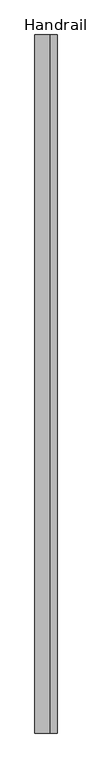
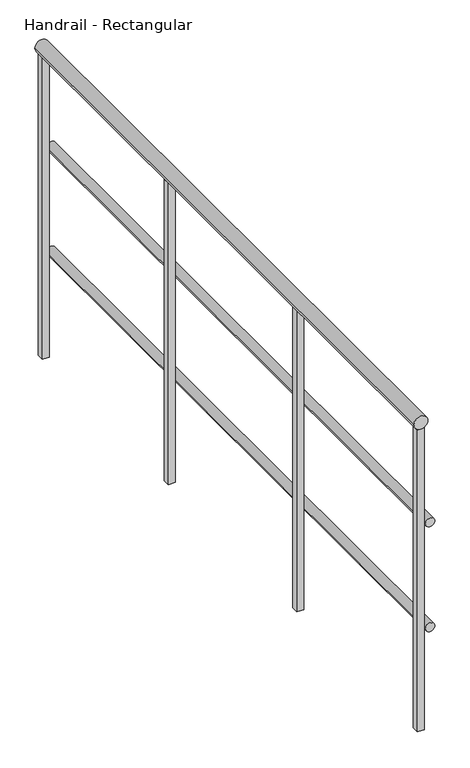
"""IFC4 building model written with IfcOpenShell, lengths in millimetres: railing geometry, Handrail - Rectangular."""

from ifc_helpers import new_model, si_unit, point, frame, frame_2d, origin, place, context, project, spatial, polyline, circle_curve, trimmed, segment, composite_curve, outline, extrude, source, transform, mapped, element, save


def handrail_rectangular_3ccce273(model_context):
    return source(origin(), model_context, "Body", "SweptSolid", [
        extrude(outline(composite_curve([segment(trimmed(circle_curve(frame_2d((3644.9, 2322.5410437)), 12.7), [point((3644.9, 2335.2410437))], [point((3644.9, 2309.8410437))], False, "CARTESIAN"), True, "CONTINUOUS"), segment(trimmed(circle_curve(frame_2d((3644.9, 2322.5410437)), 12.7), [point((3644.9, 2309.8410437))], [point((3644.9, 2335.2410437))], False, "CARTESIAN"), True, "CONTINUOUS")], self_intersect=False)), frame((0.0, 8414.2316867, 0.0), z_axis=(0.0, 1.0, 0.0), x_axis=(0.0, 0.0, 1.0)), (0.0, 0.0, 1.0), 1803.4),
        extrude(outline(composite_curve([segment(trimmed(circle_curve(frame_2d((3340.1, 2322.5410437)), 12.7), [point((3340.1, 2335.2410437))], [point((3340.1, 2309.8410437))], False, "CARTESIAN"), True, "CONTINUOUS"), segment(trimmed(circle_curve(frame_2d((3340.1, 2322.5410437)), 12.7), [point((3340.1, 2309.8410437))], [point((3340.1, 2335.2410437))], False, "CARTESIAN"), True, "CONTINUOUS")], self_intersect=False)), frame((0.0, 8414.2316867, 0.0), z_axis=(0.0, 1.0, 0.0), x_axis=(0.0, 0.0, 1.0)), (0.0, 0.0, 1.0), 1803.4),
        extrude(outline(composite_curve([segment(trimmed(circle_curve(frame_2d((3943.35, 2297.1410437)), 19.05), [point((3943.35, 2316.1910437))], [point((3943.35, 2278.0910437))], False, "CARTESIAN"), True, "CONTINUOUS"), segment(trimmed(circle_curve(frame_2d((3943.35, 2297.1410437)), 19.05), [point((3943.35, 2278.0910437))], [point((3943.35, 2316.1910437))], False, "CARTESIAN"), True, "CONTINUOUS")], self_intersect=False)), frame((0.0, 8414.2316867, 0.0), z_axis=(0.0, 1.0, 0.0), x_axis=(0.0, 0.0, 1.0)), (0.0, 0.0, 1.0), 1803.4),
        extrude(outline(polyline([(2287.6160437, 9007.9566867), (2306.6660437, 9007.9566867), (2306.6660437, 8988.9066867), (2287.6160437, 8988.9066867), (2287.6160437, 9007.9566867)])), frame((0.0, 0.0, 3048.0), z_axis=(0.0, 0.0, 1.0), x_axis=(1.0, 0.0, 0.0)), (0.0, 0.0, 1.0), 876.3),
        extrude(outline(polyline([(2287.6160437, 9617.5566867), (2306.6660437, 9617.5566867), (2306.6660437, 9598.5066867), (2287.6160437, 9598.5066867), (2287.6160437, 9617.5566867)])), frame((0.0, 0.0, 3048.0), z_axis=(0.0, 0.0, 1.0), x_axis=(1.0, 0.0, 0.0)), (0.0, 0.0, 1.0), 876.3),
        extrude(outline(polyline([(2287.6160437, 8433.2816867), (2306.6660437, 8433.2816867), (2306.6660437, 8414.2316867), (2287.6160437, 8414.2316867), (2287.6160437, 8433.2816867)])), frame((0.0, 0.0, 3048.0), z_axis=(0.0, 0.0, 1.0), x_axis=(1.0, 0.0, 0.0)), (0.0, 0.0, 1.0), 876.3),
        extrude(outline(polyline([(2287.6160437, 10217.6316867), (2306.6660437, 10217.6316867), (2306.6660437, 10198.5816867), (2287.6160437, 10198.5816867), (2287.6160437, 10217.6316867)])), frame((0.0, 0.0, 3048.0), z_axis=(0.0, 0.0, 1.0), x_axis=(1.0, 0.0, 0.0)), (0.0, 0.0, 1.0), 876.3),
    ])


if __name__ == "__main__":
    model = new_model("IFC4")
    model_context = context("Model", 3, world=origin())
    ifc_project = project(units=[si_unit("LENGTHUNIT", "METRE", prefix="MILLI")], contexts=[model_context])
    site = spatial("IfcSite", under=ifc_project)
    building = spatial("IfcBuilding", under=site)
    placement = place(None, origin())
    handrail_rectangular_shape = handrail_rectangular_3ccce273(model_context)
    element("IfcRailing", 1, ObjectType="Handrail - Rectangular", at=placement, inside=building, context=model_context, shape_type="MappedRepresentation", body=[
        mapped(handrail_rectangular_shape, transform((0.0, 0.0, 0.0), x_axis=(1.0, 0.0, 0.0), y_axis=(0.0, 1.0, 0.0), z_axis=(0.0, 0.0, 1.0))),
    ])
    save(model, "model.ifc")
